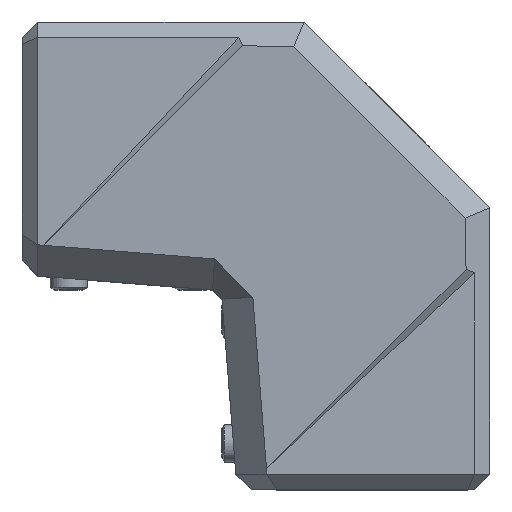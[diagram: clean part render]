
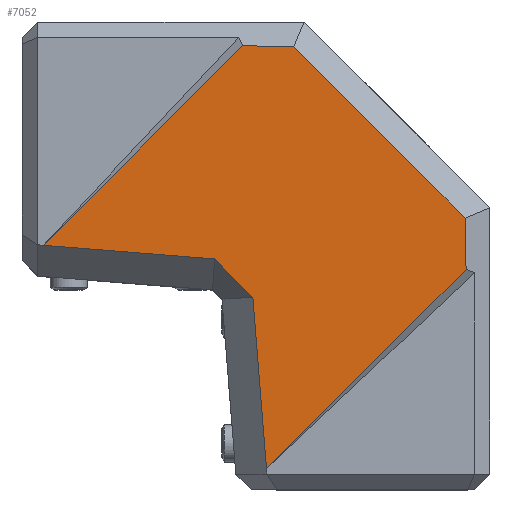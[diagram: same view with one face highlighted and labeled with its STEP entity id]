
A CAD part, top view. The second image highlights one B-rep face of the part: STEP entity #7052.
In plain terms, the highlighted planar face has unit normal (-0.021, -0.021, 1).
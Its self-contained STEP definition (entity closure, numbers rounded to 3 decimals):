
#1732=DIRECTION('',(-1.,0.02,-0.02));
#1733=VECTOR('',#1732,16.484);
#1734=CARTESIAN_POINT('',(-23.314,32.,43.));
#1735=LINE('',#1734,#1733);
#1890=DIRECTION('',(0.707,-0.707,0.));
#1891=VECTOR('',#1890,17.51);
#1892=CARTESIAN_POINT('',(-48.897,-36.515,
41.054));
#1893=LINE('',#1892,#1891);
#1904=DIRECTION('',(-0.707,-0.707,-0.029));
#1905=VECTOR('',#1904,91.176);
#1906=CARTESIAN_POINT('',(-39.791,32.334,42.666));
#1907=LINE('',#1906,#1905);
#1911=DIRECTION('',(0.707,-0.707,0.));
#1912=VECTOR('',#1911,78.225);
#1913=CARTESIAN_POINT('',(-23.314,32.,43.));
#1914=LINE('',#1913,#1912);
#1918=DIRECTION('',(0.707,0.707,0.029));
#1919=VECTOR('',#1918,91.176);
#1920=CARTESIAN_POINT('',(-32.11,-104.235,
40.));
#1921=LINE('',#1920,#1919);
#1932=DIRECTION('',(0.997,-0.079,0.019));
#1933=VECTOR('',#1932,55.523);
#1934=CARTESIAN_POINT('',(-104.235,-32.11,
40.));
#1935=LINE('',#1934,#1933);
#3266=DIRECTION('',(0.079,-0.997,-0.019));
#3267=VECTOR('',#3266,55.523);
#3268=CARTESIAN_POINT('',(-36.515,-48.897,
41.054));
#3269=LINE('',#3268,#3267);
#3323=DIRECTION('',(0.02,-1.,-0.02));
#3324=VECTOR('',#3323,16.484);
#3325=CARTESIAN_POINT('',(32.,-23.314,43.));
#3326=LINE('',#3325,#3324);
#6213=CARTESIAN_POINT('',(-39.791,32.334,42.666));
#6215=VERTEX_POINT('',#6213);
#6216=CARTESIAN_POINT('',(-23.314,32.,43.));
#6217=VERTEX_POINT('',#6216);
#6218=CARTESIAN_POINT('',(-104.235,-32.11,
40.));
#6219=VERTEX_POINT('',#6218);
#6221=CARTESIAN_POINT('',(-48.897,-36.515,
41.054));
#6223=VERTEX_POINT('',#6221);
#6268=CARTESIAN_POINT('',(32.,-23.314,43.));
#6269=VERTEX_POINT('',#6268);
#6271=CARTESIAN_POINT('',(32.334,-39.791,42.666));
#6273=VERTEX_POINT('',#6271);
#6274=CARTESIAN_POINT('',(-32.11,-104.235,
40.));
#6275=VERTEX_POINT('',#6274);
#6277=CARTESIAN_POINT('',(-36.515,-48.897,
41.054));
#6279=VERTEX_POINT('',#6277);
#7032=CARTESIAN_POINT('',(-104.234,-32.109,40.));
#7033=DIRECTION('',(-0.021,-0.021,1.));
#7034=DIRECTION('',(0.707,0.707,0.029));
#7035=AXIS2_PLACEMENT_3D('',#7032,#7033,#7034);
#7036=PLANE('',#7035);
#7037=ORIENTED_EDGE('',*,*,#7022,.F.);
#7039=ORIENTED_EDGE('',*,*,#7038,.F.);
#7041=ORIENTED_EDGE('',*,*,#7040,.F.);
#7042=ORIENTED_EDGE('',*,*,#6874,.F.);
#7043=ORIENTED_EDGE('',*,*,#6913,.T.);
#7045=ORIENTED_EDGE('',*,*,#7044,.T.);
#7047=ORIENTED_EDGE('',*,*,#7046,.F.);
#7049=ORIENTED_EDGE('',*,*,#7048,.F.);
#7050=EDGE_LOOP('',(#7037,#7039,#7041,#7042,#7043,#7045,#7047,#7049));
#7051=FACE_OUTER_BOUND('',#7050,.F.);
#6874=EDGE_CURVE('',#6217,#6215,#1735,.T.);
#6913=EDGE_CURVE('',#6217,#6269,#1914,.T.);
#7022=EDGE_CURVE('',#6223,#6279,#1893,.T.);
#7038=EDGE_CURVE('',#6219,#6223,#1935,.T.);
#7040=EDGE_CURVE('',#6215,#6219,#1907,.T.);
#7044=EDGE_CURVE('',#6269,#6273,#3326,.T.);
#7046=EDGE_CURVE('',#6275,#6273,#1921,.T.);
#7048=EDGE_CURVE('',#6279,#6275,#3269,.T.);
#7052=ADVANCED_FACE('',(#7051),#7036,.T.);
